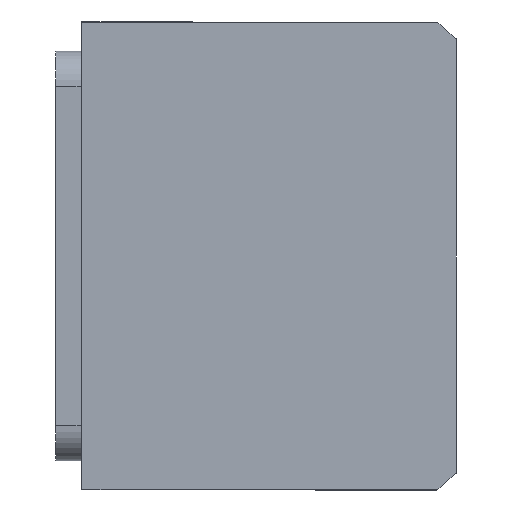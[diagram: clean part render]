
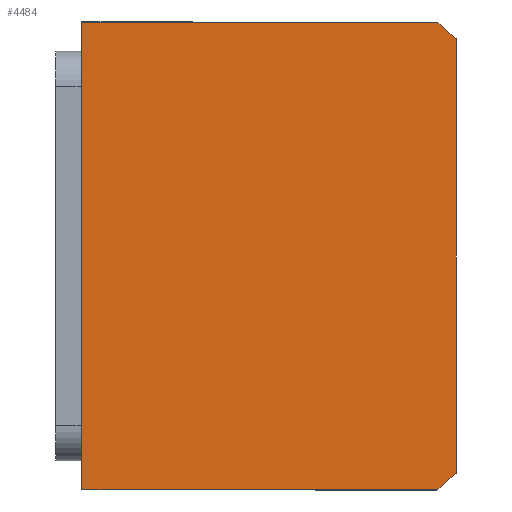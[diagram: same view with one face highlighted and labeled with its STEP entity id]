
A CAD part, front view. The second image highlights one B-rep face of the part: STEP entity #4484.
In plain terms, the highlighted planar face has unit normal (0, -1, 0) as drawn and (0, 0, -1) by its records, which use the part's own axes.
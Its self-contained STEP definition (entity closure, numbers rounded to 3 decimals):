
#64 = DIRECTION ( 'NONE',  ( -1., 0., 0. ) ) ;
#95 = DIRECTION ( 'NONE',  ( 1., 0., 0. ) ) ;
#203 = EDGE_CURVE ( 'NONE', #624, #2806, #8778, .T. ) ;
#287 = DIRECTION ( 'NONE',  ( 1., 0., 0. ) ) ;
#441 = AXIS2_PLACEMENT_3D ( 'NONE', #9679, #4979, #287 ) ;
#465 = LINE ( 'NONE', #5234, #6716 ) ;
#539 = DIRECTION ( 'NONE',  ( 0., 1., 0. ) ) ;
#624 = VERTEX_POINT ( 'NONE', #5940 ) ;
#798 = DIRECTION ( 'NONE',  ( 0., -1., 0. ) ) ;
#1149 = DIRECTION ( 'NONE',  ( 0., 0., 1. ) ) ;
#1165 = VERTEX_POINT ( 'NONE', #9932 ) ;
#1178 = DIRECTION ( 'NONE',  ( 1., 0., 0. ) ) ;
#1205 = ORIENTED_EDGE ( 'NONE', *, *, #4041, .F. ) ;
#1280 = CARTESIAN_POINT ( 'NONE',  ( 40., -11.507, 0. ) ) ;
#1460 = VERTEX_POINT ( 'NONE', #4099 ) ;
#1709 = ORIENTED_EDGE ( 'NONE', *, *, #2734, .F. ) ;
#2328 = VECTOR ( 'NONE', #798, 1000. ) ;
#2399 = CARTESIAN_POINT ( 'NONE',  ( 0., 0., 0. ) ) ;
#2734 = EDGE_CURVE ( 'NONE', #1460, #624, #9600, .T. ) ;
#2806 = VERTEX_POINT ( 'NONE', #8487 ) ;
#3540 = ORIENTED_EDGE ( 'NONE', *, *, #203, .F. ) ;
#3687 = EDGE_CURVE ( 'NONE', #7399, #1460, #5918, .T. ) ;
#3908 = LINE ( 'NONE', #6285, #2328 ) ;
#4041 = EDGE_CURVE ( 'NONE', #2806, #7239, #465, .T. ) ;
#4083 = EDGE_LOOP ( 'NONE', ( #7027, #9370, #9055, #1205, #3540, #1709 ) ) ;
#4099 = CARTESIAN_POINT ( 'NONE',  ( -37.094, -75.507, 0. ) ) ;
#4255 = FACE_OUTER_BOUND ( 'NONE', #4083, .T. ) ;
#4484 = ADVANCED_FACE ( 'NONE', ( #4255 ), #9494, .F. ) ;
#4504 = LINE ( 'NONE', #7925, #6354 ) ;
#4583 = AXIS2_PLACEMENT_3D ( 'NONE', #9588, #1149, #1178 ) ;
#4789 = DIRECTION ( 'NONE',  ( 0., 0., 1. ) ) ;
#4979 = DIRECTION ( 'NONE',  ( 0., 0., 1. ) ) ;
#5234 = CARTESIAN_POINT ( 'NONE',  ( 40., -11.507, 0. ) ) ;
#5290 = CARTESIAN_POINT ( 'NONE',  ( -40., -75.507, 0. ) ) ;
#5443 = VECTOR ( 'NONE', #9229, 1000. ) ;
#5918 = CIRCLE ( 'NONE', #441, 51. ) ;
#5940 = CARTESIAN_POINT ( 'NONE',  ( 37.094, -75.507, 0. ) ) ;
#6285 = CARTESIAN_POINT ( 'NONE',  ( -40., -11.507, 0. ) ) ;
#6354 = VECTOR ( 'NONE', #64, 1000. ) ;
#6716 = VECTOR ( 'NONE', #539, 1000. ) ;
#7027 = ORIENTED_EDGE ( 'NONE', *, *, #3687, .F. ) ;
#7213 = CARTESIAN_POINT ( 'NONE',  ( -40., -72.145, 0. ) ) ;
#7239 = VERTEX_POINT ( 'NONE', #1280 ) ;
#7399 = VERTEX_POINT ( 'NONE', #7213 ) ;
#7925 = CARTESIAN_POINT ( 'NONE',  ( -40., -11.507, 0. ) ) ;
#8139 = AXIS2_PLACEMENT_3D ( 'NONE', #2399, #4789, #95 ) ;
#8391 = EDGE_CURVE ( 'NONE', #1165, #7399, #3908, .T. ) ;
#8487 = CARTESIAN_POINT ( 'NONE',  ( 40., -72.145, 0. ) ) ;
#8778 = CIRCLE ( 'NONE', #4583, 51. ) ;
#9055 = ORIENTED_EDGE ( 'NONE', *, *, #9660, .F. ) ;
#9229 = DIRECTION ( 'NONE',  ( 1., 0., 0. ) ) ;
#9370 = ORIENTED_EDGE ( 'NONE', *, *, #8391, .F. ) ;
#9494 = PLANE ( 'NONE',  #8139 ) ;
#9588 = CARTESIAN_POINT ( 'NONE',  ( 0., -40.507, 0. ) ) ;
#9600 = LINE ( 'NONE', #5290, #5443 ) ;
#9660 = EDGE_CURVE ( 'NONE', #7239, #1165, #4504, .T. ) ;
#9679 = CARTESIAN_POINT ( 'NONE',  ( 0., -40.507, 0. ) ) ;
#9932 = CARTESIAN_POINT ( 'NONE',  ( -40., -11.507, 0. ) ) ;
